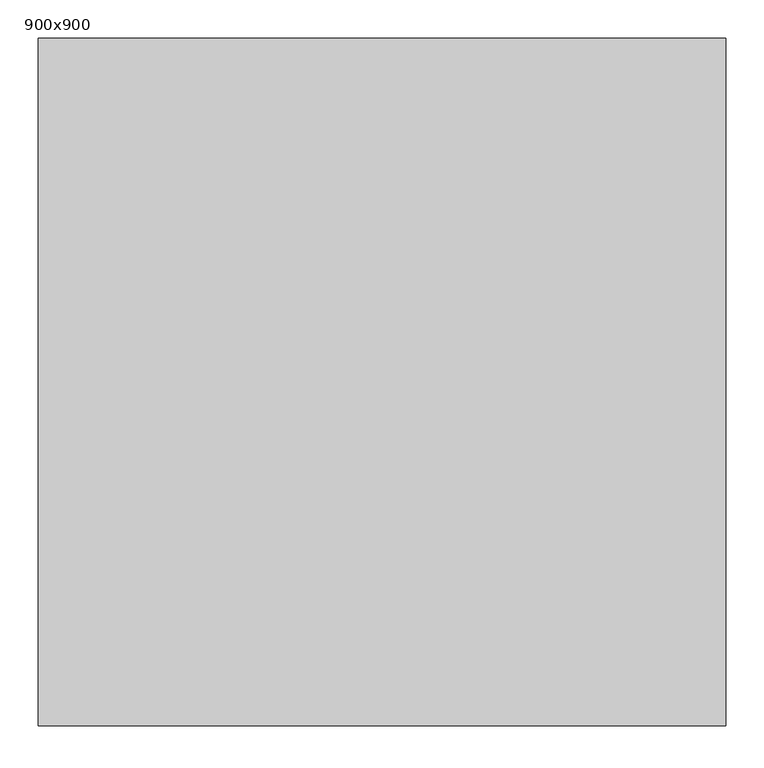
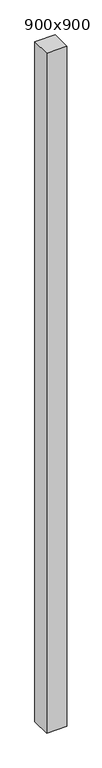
"""IFC4 building model written with IfcOpenShell, lengths in millimetres: column geometry, r 矩形柱 : 900x900."""

from ifc_helpers import new_model, si_unit, frame, origin, place, context, project, spatial, polyline, outline, extrude, source, transform, mapped, element, save


def column_900x900_9fb1827b(model_context):
    return source(origin(), model_context, "Body", "SweptSolid", [
        extrude(outline(polyline([(450.0, -450.0), (-450.0, -450.0), (-450.0, 450.0), (450.0, 450.0), (450.0, -450.0)])), frame((0.0, 0.0, -3500.0), z_axis=(0.0, 0.0, 1.0), x_axis=(1.0, 0.0, 0.0)), (0.0, 0.0, 1.0), 32100.0),
    ])


if __name__ == "__main__":
    model = new_model("IFC4")
    model_context = context("Model", 3, world=origin())
    ifc_project = project(units=[si_unit("LENGTHUNIT", "METRE", prefix="MILLI")], contexts=[model_context])
    site = spatial("IfcSite", under=ifc_project)
    building = spatial("IfcBuilding", under=site)
    placement = place(None, origin())
    column_900x900_shape = column_900x900_9fb1827b(model_context)
    element("IfcColumn", 1, ObjectType="r 矩形柱 : 900x900", at=placement, inside=building, context=model_context, shape_type="MappedRepresentation", body=[
        mapped(column_900x900_shape, transform((0.0, 0.0, 0.0), x_axis=(1.0, 0.0, 0.0), y_axis=(0.0, 1.0, 0.0), z_axis=(0.0, 0.0, 1.0))),
    ])
    save(model, "model.ifc")
